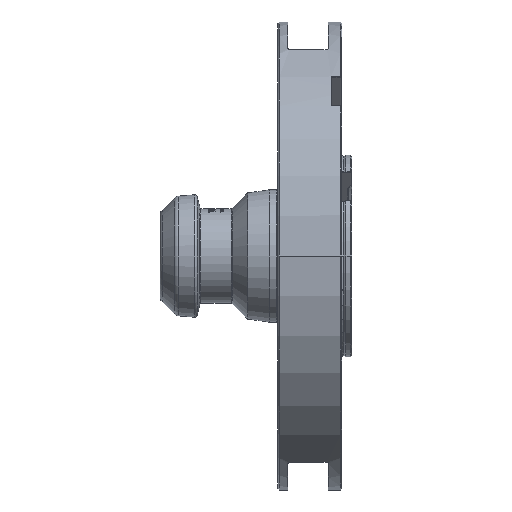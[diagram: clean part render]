
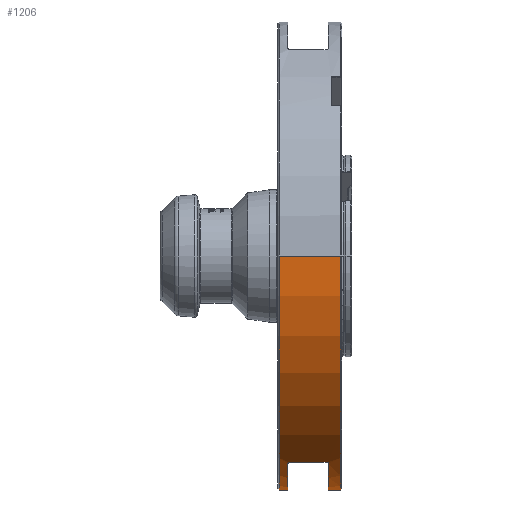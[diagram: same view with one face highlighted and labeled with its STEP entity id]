
A CAD part, front view. The second image highlights one B-rep face of the part: STEP entity #1206.
In plain terms, the highlighted cylindrical face has radius 69.5 mm (diameter 139 mm), a partial arc.
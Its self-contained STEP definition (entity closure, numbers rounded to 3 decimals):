
#140 = CARTESIAN_POINT ( 'NONE',  ( 18.6, 0., 0. ) ) ;
#251 = VERTEX_POINT ( 'NONE', #1120 ) ;
#349 = DIRECTION ( 'NONE',  ( -1., 0., 0. ) ) ;
#391 = CARTESIAN_POINT ( 'NONE',  ( -13.67, -0.5, -69.498 ) ) ;
#514 = EDGE_CURVE ( 'NONE', #9575, #15303, #641, .T. ) ;
#641 = CIRCLE ( 'NONE', #22534, 69.5 ) ;
#723 = DIRECTION ( 'NONE',  ( -1., 0., 0. ) ) ;
#859 = LINE ( 'NONE', #8913, #14271 ) ;
#1120 = CARTESIAN_POINT ( 'NONE',  ( 18.6, -69.5, 0. ) ) ;
#1130 = ORIENTED_EDGE ( 'NONE', *, *, #25362, .T. ) ;
#1206 = ADVANCED_FACE ( 'NONE', ( #8790 ), #20876, .T. ) ;
#1614 = CARTESIAN_POINT ( 'NONE',  ( 14.6, -32.75, -61.3 ) ) ;
#1898 = EDGE_CURVE ( 'NONE', #19725, #251, #8707, .T. ) ;
#1920 = CARTESIAN_POINT ( 'NONE',  ( 3.137, -32.576, -61.393 ) ) ;
#1934 = DIRECTION ( 'NONE',  ( -1., 0., 0. ) ) ;
#2011 = CARTESIAN_POINT ( 'NONE',  ( 15., -31.99, -61.7 ) ) ;
#2364 = AXIS2_PLACEMENT_3D ( 'NONE', #140, #22283, #19788 ) ;
#3174 = VERTEX_POINT ( 'NONE', #9157 ) ;
#3479 = CARTESIAN_POINT ( 'NONE',  ( 15., -31.99, -61.7 ) ) ;
#3756 = VERTEX_POINT ( 'NONE', #2011 ) ;
#4033 = CARTESIAN_POINT ( 'NONE',  ( 3.315, -32.736, -61.307 ) ) ;
#4142 = DIRECTION ( 'NONE',  ( 0., 0., 1. ) ) ;
#4216 = LINE ( 'NONE', #391, #19949 ) ;
#4424 = EDGE_CURVE ( 'NONE', #251, #3174, #14661, .T. ) ;
#4697 = DIRECTION ( 'NONE',  ( -1., 0., 0. ) ) ;
#4848 = DIRECTION ( 'NONE',  ( -1., 0., 0. ) ) ;
#4902 = VERTEX_POINT ( 'NONE', #10058 ) ;
#6657 = DIRECTION ( 'NONE',  ( 1., 0., 0. ) ) ;
#7129 = AXIS2_PLACEMENT_3D ( 'NONE', #7211, #25579, #19325 ) ;
#7184 = DIRECTION ( 'NONE',  ( 0., -1., 0. ) ) ;
#7211 = CARTESIAN_POINT ( 'NONE',  ( 15., 0., 0. ) ) ;
#7850 = CARTESIAN_POINT ( 'NONE',  ( 14.863, -32.575, -61.393 ) ) ;
#7885 = CARTESIAN_POINT ( 'NONE',  ( 3., -31.99, -61.7 ) ) ;
#7973 = EDGE_CURVE ( 'NONE', #9575, #4902, #859, .T. ) ;
#8016 = CARTESIAN_POINT ( 'NONE',  ( 3.244, -32.694, -61.33 ) ) ;
#8072 = B_SPLINE_CURVE_WITH_KNOTS ( 'NONE', 3,
 ( #1614, #21809, #25673, #17312, #25939, #7850, #21395, #11900, #17711, #3479 ),
 .UNSPECIFIED., .F., .F.,
 ( 4, 2, 2, 2, 4 ),
 ( 0., 0., 0., 0.001, 0.001 ),
 .UNSPECIFIED. ) ;
#8486 = CARTESIAN_POINT ( 'NONE',  ( 3., -31.99, -61.7 ) ) ;
#8707 = CIRCLE ( 'NONE', #2364, 69.5 ) ;
#8790 = FACE_OUTER_BOUND ( 'NONE', #10906, .T. ) ;
#8913 = CARTESIAN_POINT ( 'NONE',  ( -13.67, -0.5, -69.498 ) ) ;
#9157 = CARTESIAN_POINT ( 'NONE',  ( 0.4, -69.5, 0. ) ) ;
#9342 = CARTESIAN_POINT ( 'NONE',  ( 3.4, -32.75, -61.3 ) ) ;
#9517 = AXIS2_PLACEMENT_3D ( 'NONE', #10741, #723, #7184 ) ;
#9575 = VERTEX_POINT ( 'NONE', #19029 ) ;
#10058 = CARTESIAN_POINT ( 'NONE',  ( 0.4, -0.5, -69.498 ) ) ;
#10264 = CIRCLE ( 'NONE', #19931, 69.5 ) ;
#10380 = CARTESIAN_POINT ( 'NONE',  ( 0.4, 0., 0. ) ) ;
#10549 = ORIENTED_EDGE ( 'NONE', *, *, #19816, .F. ) ;
#10741 = CARTESIAN_POINT ( 'NONE',  ( -13.67, 0., 0. ) ) ;
#10906 = EDGE_LOOP ( 'NONE', ( #13992, #11363, #20917, #22027, #25000, #23762, #19705, #13976, #1130, #10549 ) ) ;
#11363 = ORIENTED_EDGE ( 'NONE', *, *, #4424, .T. ) ;
#11825 = CARTESIAN_POINT ( 'NONE',  ( -13.67, -69.5, 0. ) ) ;
#11900 = CARTESIAN_POINT ( 'NONE',  ( 14.98, -32.291, -61.543 ) ) ;
#11943 = CARTESIAN_POINT ( 'NONE',  ( 3.021, -32.292, -61.543 ) ) ;
#12073 = CARTESIAN_POINT ( 'NONE',  ( 3.357, -32.75, -61.3 ) ) ;
#13406 = EDGE_CURVE ( 'NONE', #22829, #25066, #16910, .T. ) ;
#13976 = ORIENTED_EDGE ( 'NONE', *, *, #14775, .T. ) ;
#13992 = ORIENTED_EDGE ( 'NONE', *, *, #1898, .T. ) ;
#14271 = VECTOR ( 'NONE', #4697, 1000. ) ;
#14661 = LINE ( 'NONE', #11825, #24756 ) ;
#14775 = EDGE_CURVE ( 'NONE', #25066, #3756, #8072, .T. ) ;
#15303 = VERTEX_POINT ( 'NONE', #8486 ) ;
#16910 = LINE ( 'NONE', #24729, #24084 ) ;
#17254 = CARTESIAN_POINT ( 'NONE',  ( 14.6, -32.75, -61.3 ) ) ;
#17312 = CARTESIAN_POINT ( 'NONE',  ( 14.756, -32.694, -61.33 ) ) ;
#17711 = CARTESIAN_POINT ( 'NONE',  ( 15., -32.141, -61.622 ) ) ;
#17854 = B_SPLINE_CURVE_WITH_KNOTS ( 'NONE', 3,
 ( #7885, #21983, #11943, #19983, #1920, #26116, #8016, #4033, #12073, #18161 ),
 .UNSPECIFIED., .F., .F.,
 ( 4, 2, 2, 2, 4 ),
 ( 0.003, 0.004, 0.004, 0.004, 0.004 ),
 .UNSPECIFIED. ) ;
#18161 = CARTESIAN_POINT ( 'NONE',  ( 3.4, -32.75, -61.3 ) ) ;
#18275 = DIRECTION ( 'NONE',  ( -1., 0., 0. ) ) ;
#18922 = CARTESIAN_POINT ( 'NONE',  ( 15., -0.5, -69.498 ) ) ;
#18976 = EDGE_CURVE ( 'NONE', #4902, #3174, #10264, .T. ) ;
#19029 = CARTESIAN_POINT ( 'NONE',  ( 3., -0.5, -69.498 ) ) ;
#19325 = DIRECTION ( 'NONE',  ( 0., 0., -1. ) ) ;
#19368 = CARTESIAN_POINT ( 'NONE',  ( 18.6, -0.5, -69.498 ) ) ;
#19705 = ORIENTED_EDGE ( 'NONE', *, *, #13406, .T. ) ;
#19725 = VERTEX_POINT ( 'NONE', #19368 ) ;
#19788 = DIRECTION ( 'NONE',  ( 0., -1., 0. ) ) ;
#19816 = EDGE_CURVE ( 'NONE', #19725, #24392, #4216, .T. ) ;
#19931 = AXIS2_PLACEMENT_3D ( 'NONE', #10380, #349, #22487 ) ;
#19949 = VECTOR ( 'NONE', #4848, 1000. ) ;
#19983 = CARTESIAN_POINT ( 'NONE',  ( 3.102, -32.507, -61.429 ) ) ;
#20876 = CYLINDRICAL_SURFACE ( 'NONE', #9517, 69.5 ) ;
#20917 = ORIENTED_EDGE ( 'NONE', *, *, #18976, .F. ) ;
#21395 = CARTESIAN_POINT ( 'NONE',  ( 14.899, -32.506, -61.43 ) ) ;
#21809 = CARTESIAN_POINT ( 'NONE',  ( 14.643, -32.75, -61.3 ) ) ;
#21983 = CARTESIAN_POINT ( 'NONE',  ( 3., -32.14, -61.622 ) ) ;
#22027 = ORIENTED_EDGE ( 'NONE', *, *, #7973, .F. ) ;
#22283 = DIRECTION ( 'NONE',  ( -1., 0., 0. ) ) ;
#22487 = DIRECTION ( 'NONE',  ( 0., -1., 0. ) ) ;
#22534 = AXIS2_PLACEMENT_3D ( 'NONE', #24486, #18275, #4142 ) ;
#22829 = VERTEX_POINT ( 'NONE', #9342 ) ;
#23128 = CIRCLE ( 'NONE', #7129, 69.5 ) ;
#23721 = EDGE_CURVE ( 'NONE', #15303, #22829, #17854, .T. ) ;
#23762 = ORIENTED_EDGE ( 'NONE', *, *, #23721, .T. ) ;
#24084 = VECTOR ( 'NONE', #6657, 1000. ) ;
#24392 = VERTEX_POINT ( 'NONE', #18922 ) ;
#24486 = CARTESIAN_POINT ( 'NONE',  ( 3., 0., 0. ) ) ;
#24729 = CARTESIAN_POINT ( 'NONE',  ( -13.67, -32.75, -61.3 ) ) ;
#24756 = VECTOR ( 'NONE', #1934, 1000. ) ;
#25000 = ORIENTED_EDGE ( 'NONE', *, *, #514, .T. ) ;
#25066 = VERTEX_POINT ( 'NONE', #17254 ) ;
#25362 = EDGE_CURVE ( 'NONE', #3756, #24392, #23128, .T. ) ;
#25579 = DIRECTION ( 'NONE',  ( 1., 0., 0. ) ) ;
#25673 = CARTESIAN_POINT ( 'NONE',  ( 14.685, -32.736, -61.307 ) ) ;
#25939 = CARTESIAN_POINT ( 'NONE',  ( 14.786, -32.666, -61.345 ) ) ;
#26116 = CARTESIAN_POINT ( 'NONE',  ( 3.214, -32.667, -61.345 ) ) ;
